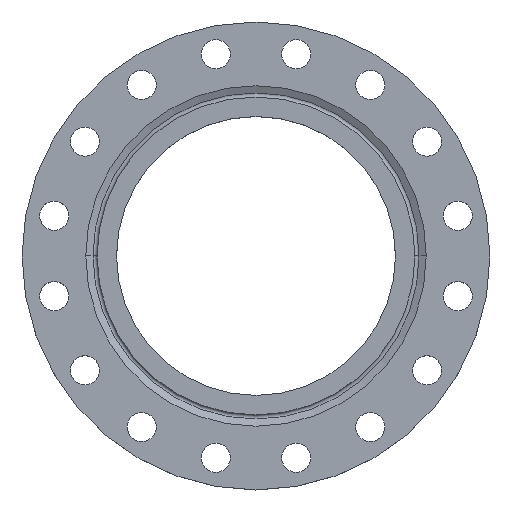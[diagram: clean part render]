
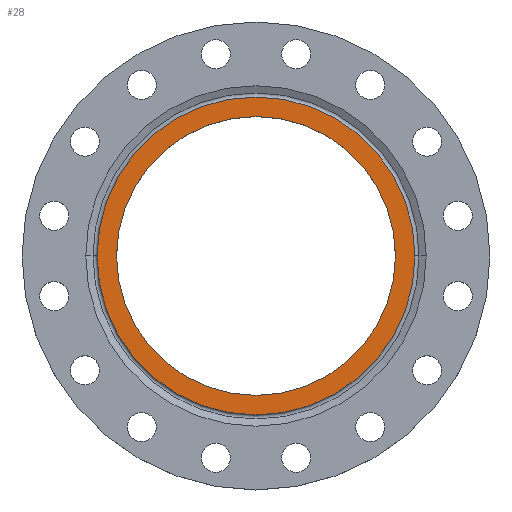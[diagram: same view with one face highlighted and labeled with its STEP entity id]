
A CAD part, top view. The second image highlights one B-rep face of the part: STEP entity #28.
In plain terms, the highlighted planar face has unit normal (0, 0, 1).
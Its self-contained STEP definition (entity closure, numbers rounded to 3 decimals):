
#17 = DIRECTION ( 'NONE',  ( -1., 0., 0. ) ) ;
#18 = DIRECTION ( 'NONE',  ( 0., 0., -1. ) ) ;
#20 = CARTESIAN_POINT ( 'NONE',  ( 0., 0., 0. ) ) ;
#28 = ADVANCED_FACE ( 'NONE', ( #581, #577 ), #576, .T. ) ;
#118 = CIRCLE ( 'NONE', #145, 172.835 ) ;
#145 = AXIS2_PLACEMENT_3D ( 'NONE', #1658, #1657, #1655 ) ;
#165 = DIRECTION ( 'NONE',  ( 1., 0., 0. ) ) ;
#168 = DIRECTION ( 'NONE',  ( 0., 0., 1. ) ) ;
#169 = CARTESIAN_POINT ( 'NONE',  ( 0., 0., 0. ) ) ;
#242 = CARTESIAN_POINT ( 'NONE',  ( 197., 0., 0. ) ) ;
#249 = CIRCLE ( 'NONE', #378, 172.835 ) ;
#275 = CARTESIAN_POINT ( 'NONE',  ( -172.835, 0., 0. ) ) ;
#282 = CARTESIAN_POINT ( 'NONE',  ( -197., 0., 0. ) ) ;
#286 = CARTESIAN_POINT ( 'NONE',  ( 172.835, 0., 0. ) ) ;
#378 = AXIS2_PLACEMENT_3D ( 'NONE', #169, #168, #165 ) ;
#567 = DIRECTION ( 'NONE',  ( 1., 0., 0. ) ) ;
#568 = DIRECTION ( 'NONE',  ( 0., 0., 1. ) ) ;
#570 = CARTESIAN_POINT ( 'NONE',  ( 0., 0., 0. ) ) ;
#576 = PLANE ( 'NONE',  #790 ) ;
#577 = FACE_OUTER_BOUND ( 'NONE', #818, .T. ) ;
#581 = FACE_BOUND ( 'NONE', #801, .T. ) ;
#596 = VERTEX_POINT ( 'NONE', #286 ) ;
#599 = VERTEX_POINT ( 'NONE', #282 ) ;
#604 = VERTEX_POINT ( 'NONE', #275 ) ;
#666 = VERTEX_POINT ( 'NONE', #242 ) ;
#741 = CIRCLE ( 'NONE', #1393, 197. ) ;
#790 = AXIS2_PLACEMENT_3D ( 'NONE', #570, #568, #567 ) ;
#801 = EDGE_LOOP ( 'NONE', ( #1323, #1324 ) ) ;
#818 = EDGE_LOOP ( 'NONE', ( #1326, #1327 ) ) ;
#823 = AXIS2_PLACEMENT_3D ( 'NONE', #20, #18, #17 ) ;
#847 = EDGE_CURVE ( 'NONE', #604, #596, #249, .T. ) ;
#969 = DIRECTION ( 'NONE',  ( -1., 0., 0. ) ) ;
#970 = DIRECTION ( 'NONE',  ( 0., 0., -1. ) ) ;
#971 = CARTESIAN_POINT ( 'NONE',  ( 0., 0., 0. ) ) ;
#979 = EDGE_CURVE ( 'NONE', #599, #666, #1139, .T. ) ;
#1072 = EDGE_CURVE ( 'NONE', #596, #604, #118, .T. ) ;
#1139 = CIRCLE ( 'NONE', #823, 197. ) ;
#1142 = EDGE_CURVE ( 'NONE', #666, #599, #741, .T. ) ;
#1323 = ORIENTED_EDGE ( 'NONE', *, *, #1072, .F. ) ;
#1324 = ORIENTED_EDGE ( 'NONE', *, *, #847, .F. ) ;
#1326 = ORIENTED_EDGE ( 'NONE', *, *, #979, .F. ) ;
#1327 = ORIENTED_EDGE ( 'NONE', *, *, #1142, .F. ) ;
#1393 = AXIS2_PLACEMENT_3D ( 'NONE', #971, #970, #969 ) ;
#1655 = DIRECTION ( 'NONE',  ( 1., 0., 0. ) ) ;
#1657 = DIRECTION ( 'NONE',  ( 0., 0., 1. ) ) ;
#1658 = CARTESIAN_POINT ( 'NONE',  ( 0., 0., 0. ) ) ;
